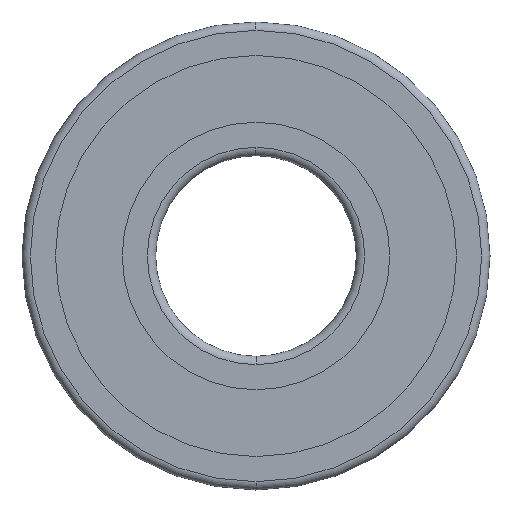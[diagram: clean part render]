
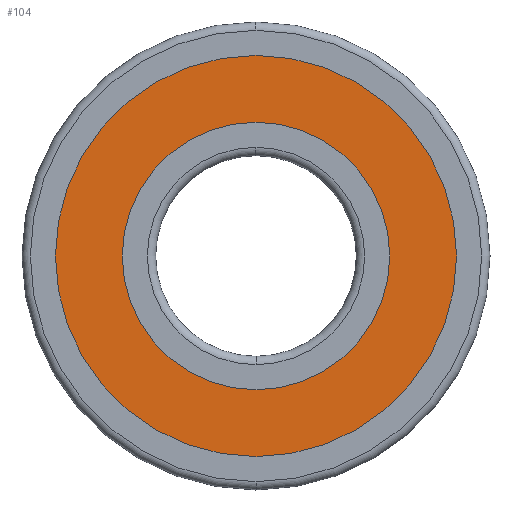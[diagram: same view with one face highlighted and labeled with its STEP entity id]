
A CAD part, left-side view. The second image highlights one B-rep face of the part: STEP entity #104.
In plain terms, the highlighted planar face has unit normal (-1, 0, 0).
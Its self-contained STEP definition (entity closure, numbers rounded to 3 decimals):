
#104 = ADVANCED_FACE ( 'NONE', ( #691, #615 ), #609, .F. ) ;
#105 = EDGE_LOOP ( 'NONE', ( #273, #279 ) ) ;
#106 = EDGE_CURVE ( 'NONE', #237, #236, #595, .T. ) ;
#123 = VERTEX_POINT ( 'NONE', #505 ) ;
#196 = ORIENTED_EDGE ( 'NONE', *, *, #245, .T. ) ;
#231 = EDGE_CURVE ( 'NONE', #236, #237, #903, .T. ) ;
#236 = VERTEX_POINT ( 'NONE', #908 ) ;
#237 = VERTEX_POINT ( 'NONE', #756 ) ;
#245 = EDGE_CURVE ( 'NONE', #123, #247, #911, .T. ) ;
#247 = VERTEX_POINT ( 'NONE', #784 ) ;
#259 = EDGE_LOOP ( 'NONE', ( #260, #196 ) ) ;
#260 = ORIENTED_EDGE ( 'NONE', *, *, #264, .T. ) ;
#264 = EDGE_CURVE ( 'NONE', #247, #123, #901, .T. ) ;
#273 = ORIENTED_EDGE ( 'NONE', *, *, #231, .F. ) ;
#279 = ORIENTED_EDGE ( 'NONE', *, *, #106, .F. ) ;
#505 = CARTESIAN_POINT ( 'NONE',  ( 0.4, 0., -12. ) ) ;
#586 = DIRECTION ( 'NONE',  ( 0., 0., 1. ) ) ;
#587 = DIRECTION ( 'NONE',  ( -1., 0., 0. ) ) ;
#588 = CARTESIAN_POINT ( 'NONE',  ( 0.4, 0., 0. ) ) ;
#589 = AXIS2_PLACEMENT_3D ( 'NONE', #588, #587, #586 ) ;
#592 = DIRECTION ( 'NONE',  ( 0., 0., -1. ) ) ;
#593 = DIRECTION ( 'NONE',  ( 1., 0., 0. ) ) ;
#594 = CARTESIAN_POINT ( 'NONE',  ( 0.4, 12., 0. ) ) ;
#595 = CIRCLE ( 'NONE', #589, 8. ) ;
#609 = PLANE ( 'NONE',  #614 ) ;
#614 = AXIS2_PLACEMENT_3D ( 'NONE', #594, #593, #592 ) ;
#615 = FACE_OUTER_BOUND ( 'NONE', #259, .T. ) ;
#691 = FACE_BOUND ( 'NONE', #105, .T. ) ;
#756 = CARTESIAN_POINT ( 'NONE',  ( 0.4, 0., -8. ) ) ;
#757 = DIRECTION ( 'NONE',  ( 0., 0., 1. ) ) ;
#758 = DIRECTION ( 'NONE',  ( -1., 0., 0. ) ) ;
#773 = DIRECTION ( 'NONE',  ( 0., 0., 1. ) ) ;
#774 = DIRECTION ( 'NONE',  ( -1., 0., 0. ) ) ;
#775 = CARTESIAN_POINT ( 'NONE',  ( 0.4, 0., 0. ) ) ;
#783 = AXIS2_PLACEMENT_3D ( 'NONE', #775, #774, #773 ) ;
#784 = CARTESIAN_POINT ( 'NONE',  ( 0.4, 0., 12. ) ) ;
#878 = DIRECTION ( 'NONE',  ( 0., 0., 1. ) ) ;
#879 = DIRECTION ( 'NONE',  ( -1., 0., 0. ) ) ;
#880 = AXIS2_PLACEMENT_3D ( 'NONE', #888, #879, #878 ) ;
#888 = CARTESIAN_POINT ( 'NONE',  ( 0.4, 0., 0. ) ) ;
#901 = CIRCLE ( 'NONE', #880, 12. ) ;
#903 = CIRCLE ( 'NONE', #918, 8. ) ;
#907 = CARTESIAN_POINT ( 'NONE',  ( 0.4, 0., 0. ) ) ;
#908 = CARTESIAN_POINT ( 'NONE',  ( 0.4, 0., 8. ) ) ;
#911 = CIRCLE ( 'NONE', #783, 12. ) ;
#918 = AXIS2_PLACEMENT_3D ( 'NONE', #907, #758, #757 ) ;
